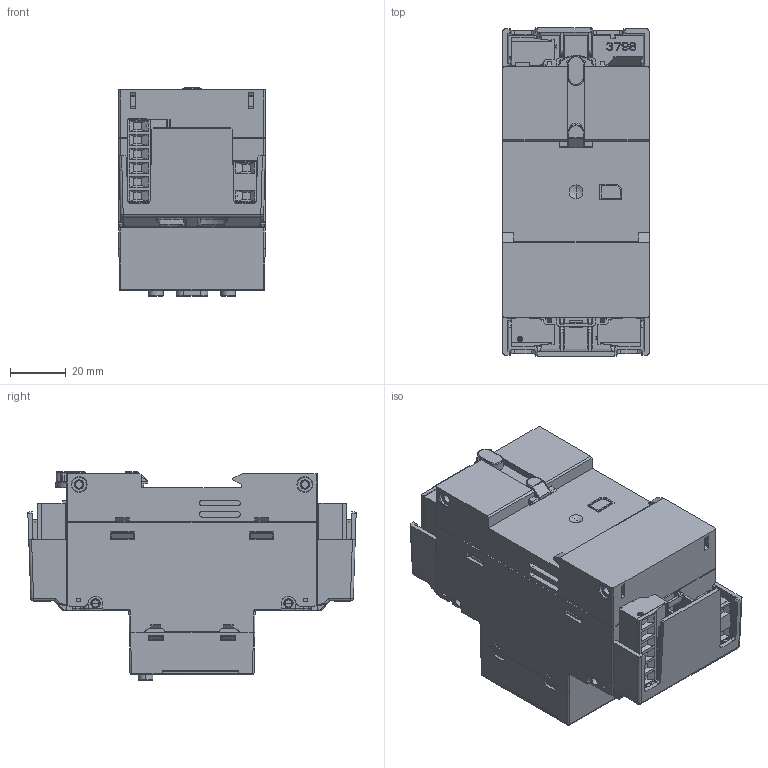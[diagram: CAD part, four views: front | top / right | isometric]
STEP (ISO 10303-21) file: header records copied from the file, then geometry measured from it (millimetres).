
FILE_DESCRIPTION((''),'2;1');
FILE_NAME('MINI_ETHERNET_SW0001','2021-01-22T08:28:14',('esors'),(''),'CREO PARAMETRIC BY PTC INC, 2018260','CREO PARAMETRIC BY PTC INC, 2018260','');
FILE_SCHEMA(('AUTOMOTIVE_DESIGN { 1 0 10303 214 1 1 1 1 }'));
Products named in the file (1): MINI_ETHERNET_SW0001
Bounding box: 52.5 x 117.85 x 74.65 mm (x, y, z)
Volume: 274436 mm3; surface area: 88082.8 mm2
Topology: 1 solids, 1 shells, 3456 faces, 10170 edges, 6673 vertices
Faces by surface type: plane 2553, cylinder 590, cone 198, torus 58, bspline 34, sphere 22, extrusion 1
Entity records: 155269 total; most frequent: CARTESIAN_POINT 32204, ORIENTED_EDGE 20298, DIRECTION 17016, PRESENTATION_STYLE_ASSIGNMENT 10150, STYLED_ITEM 10150, CURVE_STYLE 10149, EDGE_CURVE 10149, VECTOR 7528
